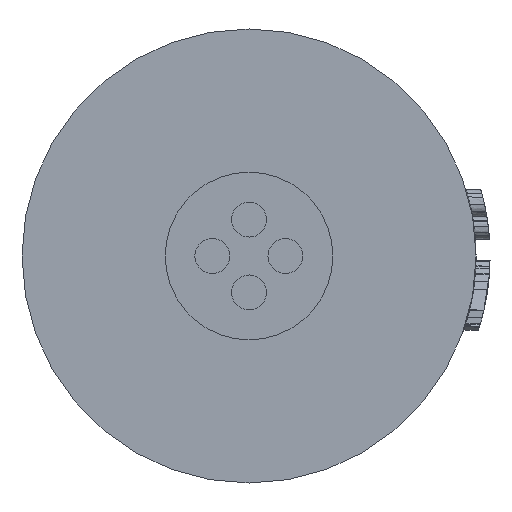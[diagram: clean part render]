
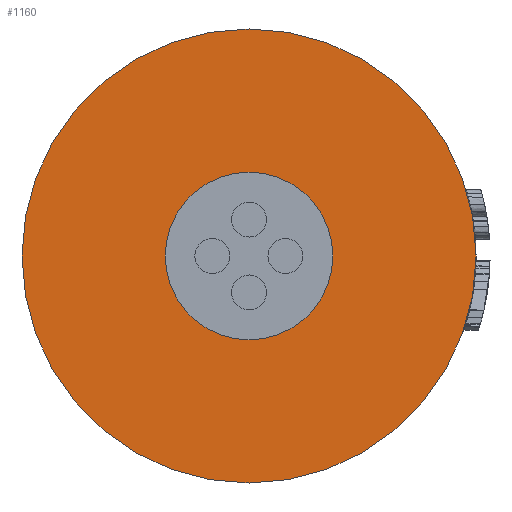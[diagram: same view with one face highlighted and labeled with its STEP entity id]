
A CAD part, front view. The second image highlights one B-rep face of the part: STEP entity #1160.
In plain terms, the highlighted planar face has unit normal (0, -1, 0).
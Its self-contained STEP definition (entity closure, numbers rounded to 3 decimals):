
#104=FACE_BOUND('',#3557,.T.);
#105=FACE_BOUND('',#3558,.T.);
#230=CIRCLE('',#13298,1.2);
#231=CIRCLE('',#13300,3.25);
#510=PLANE('',#13301);
#1160=ADVANCED_FACE('',(#104,#105),#510,.F.);
#3557=EDGE_LOOP('',(#5865));
#3558=EDGE_LOOP('',(#5866));
#5865=ORIENTED_EDGE('',*,*,#10498,.F.);
#5866=ORIENTED_EDGE('',*,*,#10497,.T.);
#8691=VERTEX_POINT('',#26596);
#8692=VERTEX_POINT('',#26599);
#10497=EDGE_CURVE('',#8691,#8691,#230,.T.);
#10498=EDGE_CURVE('',#8692,#8692,#231,.T.);
#13298=AXIS2_PLACEMENT_3D('',#26595,#14418,#14419);
#13300=AXIS2_PLACEMENT_3D('',#26598,#14422,#14423);
#13301=AXIS2_PLACEMENT_3D('',#26600,#14424,#14425);
#14418=DIRECTION('',(0.,1.,0.));
#14419=DIRECTION('',(1.,0.,0.));
#14422=DIRECTION('',(0.,1.,0.));
#14423=DIRECTION('',(1.,0.,0.));
#14424=DIRECTION('',(0.,1.,0.));
#14425=DIRECTION('',(-1.,0.,0.));
#26595=CARTESIAN_POINT('',(0.,2.,0.));
#26596=CARTESIAN_POINT('',(1.2,2.,0.));
#26598=CARTESIAN_POINT('',(0.,2.,0.));
#26599=CARTESIAN_POINT('',(3.25,2.,0.));
#26600=CARTESIAN_POINT('',(0.,2.,0.));
